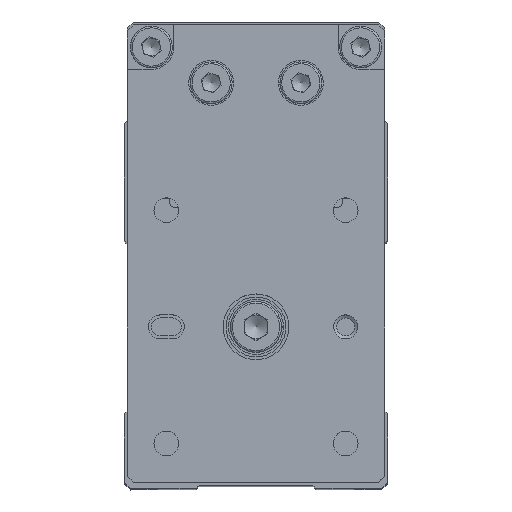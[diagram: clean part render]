
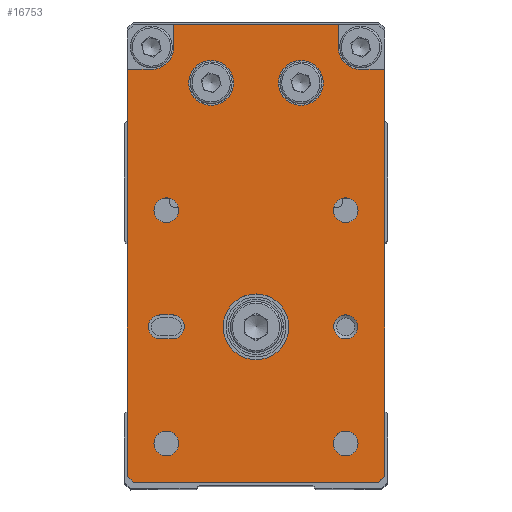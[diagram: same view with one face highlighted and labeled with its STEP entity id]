
A CAD part, top view. The second image highlights one B-rep face of the part: STEP entity #16753.
In plain terms, the highlighted planar face has unit normal (0, 0, 1).
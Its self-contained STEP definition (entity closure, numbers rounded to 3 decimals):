
#16246=CARTESIAN_POINT('',(49.652,-29.,93.));
#16247=VERTEX_POINT('',#16246);
#16248=CARTESIAN_POINT('',(53.402,-25.25,93.));
#16249=VERTEX_POINT('',#16248);
#16250=CARTESIAN_POINT('',(53.402,-29.,93.));
#16251=DIRECTION('',(0.0,0.0,-1.0));
#16252=DIRECTION('',(0.0,1.0,0.0));
#16253=AXIS2_PLACEMENT_3D('',#16250,#16251,#16252);
#16254=CIRCLE('',#16253,3.75);
#16255=EDGE_CURVE('',#16247,#16249,#16254,.T.);
#16288=CARTESIAN_POINT('',(49.652,-33.,93.));
#16289=VERTEX_POINT('',#16288);
#16290=CARTESIAN_POINT('',(49.652,-33.,93.));
#16291=DIRECTION('',(0.0,1.0,0.0));
#16292=VECTOR('',#16291,4.0);
#16293=LINE('',#16290,#16292);
#16294=EDGE_CURVE('',#16289,#16247,#16293,.T.);
#16319=CARTESIAN_POINT('',(57.102,-25.25,93.));
#16320=VERTEX_POINT('',#16319);
#16321=CARTESIAN_POINT('',(53.402,-25.25,93.));
#16322=DIRECTION('',(1.0,0.0,0.0));
#16323=VECTOR('',#16322,3.7);
#16324=LINE('',#16321,#16323);
#16325=EDGE_CURVE('',#16249,#16320,#16324,.T.);
#16394=CARTESIAN_POINT('',(49.652,6.,93.));
#16395=VERTEX_POINT('',#16394);
#16396=CARTESIAN_POINT('',(49.652,10.,93.));
#16397=VERTEX_POINT('',#16396);
#16398=CARTESIAN_POINT('',(49.652,6.,93.));
#16399=DIRECTION('',(0.0,1.0,0.0));
#16400=VECTOR('',#16399,4.);
#16401=LINE('',#16398,#16400);
#16402=EDGE_CURVE('',#16395,#16397,#16401,.T.);
#16434=CARTESIAN_POINT('',(53.402,2.25,93.));
#16435=VERTEX_POINT('',#16434);
#16436=CARTESIAN_POINT('',(53.402,6.,93.));
#16437=DIRECTION('',(0.0,0.0,-1.0));
#16438=DIRECTION('',(1.0,0.0,0.0));
#16439=AXIS2_PLACEMENT_3D('',#16436,#16437,#16438);
#16440=CIRCLE('',#16439,3.75);
#16441=EDGE_CURVE('',#16435,#16395,#16440,.T.);
#16467=CARTESIAN_POINT('',(57.102,2.25,93.));
#16468=VERTEX_POINT('',#16467);
#16469=CARTESIAN_POINT('',(57.102,2.25,93.));
#16470=DIRECTION('',(-1.0,0.0,0.0));
#16471=VECTOR('',#16470,3.7);
#16472=LINE('',#16469,#16471);
#16473=EDGE_CURVE('',#16468,#16435,#16472,.T.);
#16568=CARTESIAN_POINT('',(57.102,-25.25,93.));
#16569=DIRECTION('',(0.0,1.0,0.0));
#16570=VECTOR('',#16569,27.5);
#16571=LINE('',#16568,#16570);
#16572=EDGE_CURVE('',#16320,#16468,#16571,.T.);
#16577=CARTESIAN_POINT('',(18.852,-11.5,93.));
#16578=DIRECTION('',(0.0,0.0,1.0));
#16579=DIRECTION('',(1.0,0.0,0.0));
#16580=AXIS2_PLACEMENT_3D('',#16577,#16578,#16579);
#16581=PLANE('',#16580);
#16582=ORIENTED_EDGE('',*,*,#16294,.T.);
#16583=ORIENTED_EDGE('',*,*,#16255,.T.);
#16584=ORIENTED_EDGE('',*,*,#16325,.T.);
#16585=ORIENTED_EDGE('',*,*,#16572,.T.);
#16586=ORIENTED_EDGE('',*,*,#16473,.T.);
#16587=ORIENTED_EDGE('',*,*,#16441,.T.);
#16588=ORIENTED_EDGE('',*,*,#16402,.T.);
#16589=CARTESIAN_POINT('',(-18.398,10.,93.));
#16590=VERTEX_POINT('',#16589);
#16591=CARTESIAN_POINT('',(49.652,10.,93.));
#16592=DIRECTION('',(-1.0,0.0,0.0));
#16593=VECTOR('',#16592,68.05);
#16594=LINE('',#16591,#16593);
#16595=EDGE_CURVE('',#16397,#16590,#16594,.T.);
#16596=ORIENTED_EDGE('',*,*,#16595,.T.);
#16597=CARTESIAN_POINT('',(-19.398,9.,93.));
#16598=VERTEX_POINT('',#16597);
#16599=CARTESIAN_POINT('',(-18.398,10.,93.));
#16600=DIRECTION('',(-0.707,-0.707,0.0));
#16601=VECTOR('',#16600,1.414);
#16602=LINE('',#16599,#16601);
#16603=EDGE_CURVE('',#16590,#16598,#16602,.T.);
#16604=ORIENTED_EDGE('',*,*,#16603,.T.);
#16605=CARTESIAN_POINT('',(-19.398,-32.,93.));
#16606=VERTEX_POINT('',#16605);
#16607=CARTESIAN_POINT('',(-19.398,9.,93.));
#16608=DIRECTION('',(0.0,-1.0,0.0));
#16609=VECTOR('',#16608,41.);
#16610=LINE('',#16607,#16609);
#16611=EDGE_CURVE('',#16598,#16606,#16610,.T.);
#16612=ORIENTED_EDGE('',*,*,#16611,.T.);
#16613=CARTESIAN_POINT('',(-18.398,-33.,93.));
#16614=VERTEX_POINT('',#16613);
#16615=CARTESIAN_POINT('',(-19.398,-32.,93.));
#16616=DIRECTION('',(0.707,-0.707,0.0));
#16617=VECTOR('',#16616,1.414);
#16618=LINE('',#16615,#16617);
#16619=EDGE_CURVE('',#16606,#16614,#16618,.T.);
#16620=ORIENTED_EDGE('',*,*,#16619,.T.);
#16621=CARTESIAN_POINT('',(-18.398,-33.,93.));
#16622=DIRECTION('',(1.0,0.0,0.0));
#16623=VECTOR('',#16622,68.05);
#16624=LINE('',#16621,#16623);
#16625=EDGE_CURVE('',#16614,#16289,#16624,.T.);
#16626=ORIENTED_EDGE('',*,*,#16625,.T.);
#16627=EDGE_LOOP('',(#16582,#16583,#16584,#16585,#16586,#16587,#16588,#16596,#16604,#16612,#16620,#16626));
#16628=FACE_OUTER_BOUND('',#16627,.T.);
#16629=CARTESIAN_POINT('',(28.169,-26.5,93.));
#16630=VERTEX_POINT('',#16629);
#16631=CARTESIAN_POINT('',(26.102,-26.5,93.));
#16632=DIRECTION('',(0.0,0.0,-1.0));
#16633=DIRECTION('',(-1.0,0.0,0.0));
#16634=AXIS2_PLACEMENT_3D('',#16631,#16632,#16633);
#16635=CIRCLE('',#16634,2.067);
#16636=EDGE_CURVE('',#16630,#16630,#16635,.T.);
#16637=ORIENTED_EDGE('',*,*,#16636,.T.);
#16638=EDGE_LOOP('',(#16637));
#16639=FACE_BOUND('',#16638,.T.);
#16640=CARTESIAN_POINT('',(-10.831,3.5,93.));
#16641=VERTEX_POINT('',#16640);
#16642=CARTESIAN_POINT('',(-12.898,3.5,93.));
#16643=DIRECTION('',(0.0,0.0,-1.0));
#16644=DIRECTION('',(-1.0,0.0,0.0));
#16645=AXIS2_PLACEMENT_3D('',#16642,#16643,#16644);
#16646=CIRCLE('',#16645,2.067);
#16647=EDGE_CURVE('',#16641,#16641,#16646,.T.);
#16648=ORIENTED_EDGE('',*,*,#16647,.T.);
#16649=EDGE_LOOP('',(#16648));
#16650=FACE_BOUND('',#16649,.T.);
#16651=CARTESIAN_POINT('',(28.169,3.5,93.));
#16652=VERTEX_POINT('',#16651);
#16653=CARTESIAN_POINT('',(26.102,3.5,93.));
#16654=DIRECTION('',(0.0,0.0,-1.0));
#16655=DIRECTION('',(-1.0,0.0,0.0));
#16656=AXIS2_PLACEMENT_3D('',#16653,#16654,#16655);
#16657=CIRCLE('',#16656,2.067);
#16658=EDGE_CURVE('',#16652,#16652,#16657,.T.);
#16659=ORIENTED_EDGE('',*,*,#16658,.T.);
#16660=EDGE_LOOP('',(#16659));
#16661=FACE_BOUND('',#16660,.T.);
#16662=CARTESIAN_POINT('',(-10.831,-26.5,93.));
#16663=VERTEX_POINT('',#16662);
#16664=CARTESIAN_POINT('',(-12.898,-26.5,93.));
#16665=DIRECTION('',(0.0,0.0,-1.0));
#16666=DIRECTION('',(-1.0,0.0,0.0));
#16667=AXIS2_PLACEMENT_3D('',#16664,#16665,#16666);
#16668=CIRCLE('',#16667,2.067);
#16669=EDGE_CURVE('',#16663,#16663,#16668,.T.);
#16670=ORIENTED_EDGE('',*,*,#16669,.T.);
#16671=EDGE_LOOP('',(#16670));
#16672=FACE_BOUND('',#16671,.T.);
#16673=CARTESIAN_POINT('',(12.102,-11.5,93.));
#16674=VERTEX_POINT('',#16673);
#16675=CARTESIAN_POINT('',(6.602,-11.5,93.));
#16676=DIRECTION('',(0.0,0.0,-1.0));
#16677=DIRECTION('',(-1.0,0.0,0.0));
#16678=AXIS2_PLACEMENT_3D('',#16675,#16676,#16677);
#16679=CIRCLE('',#16678,5.5);
#16680=EDGE_CURVE('',#16674,#16674,#16679,.T.);
#16681=ORIENTED_EDGE('',*,*,#16680,.T.);
#16682=EDGE_LOOP('',(#16681));
#16683=FACE_BOUND('',#16682,.T.);
#16684=CARTESIAN_POINT('',(8.602,2.5,93.));
#16685=VERTEX_POINT('',#16684);
#16686=CARTESIAN_POINT('',(4.602,2.5,93.));
#16687=VERTEX_POINT('',#16686);
#16688=CARTESIAN_POINT('',(6.602,2.5,93.));
#16689=DIRECTION('',(0.0,0.0,-1.0));
#16690=DIRECTION('',(1.0,0.0,0.0));
#16691=AXIS2_PLACEMENT_3D('',#16688,#16689,#16690);
#16692=CIRCLE('',#16691,2.);
#16693=EDGE_CURVE('',#16685,#16687,#16692,.T.);
#16694=ORIENTED_EDGE('',*,*,#16693,.T.);
#16695=CARTESIAN_POINT('',(4.602,4.5,93.));
#16696=VERTEX_POINT('',#16695);
#16697=CARTESIAN_POINT('',(4.602,2.5,93.));
#16698=DIRECTION('',(0.0,1.0,0.0));
#16699=VECTOR('',#16698,2.);
#16700=LINE('',#16697,#16699);
#16701=EDGE_CURVE('',#16687,#16696,#16700,.T.);
#16702=ORIENTED_EDGE('',*,*,#16701,.T.);
#16703=CARTESIAN_POINT('',(8.602,4.5,93.));
#16704=VERTEX_POINT('',#16703);
#16705=CARTESIAN_POINT('',(6.602,4.5,93.));
#16706=DIRECTION('',(0.0,0.0,-1.0));
#16707=DIRECTION('',(-1.0,0.0,0.0));
#16708=AXIS2_PLACEMENT_3D('',#16705,#16706,#16707);
#16709=CIRCLE('',#16708,2.0);
#16710=EDGE_CURVE('',#16696,#16704,#16709,.T.);
#16711=ORIENTED_EDGE('',*,*,#16710,.T.);
#16712=CARTESIAN_POINT('',(8.602,4.5,93.));
#16713=DIRECTION('',(0.0,-1.0,0.0));
#16714=VECTOR('',#16713,2.);
#16715=LINE('',#16712,#16714);
#16716=EDGE_CURVE('',#16704,#16685,#16715,.T.);
#16717=ORIENTED_EDGE('',*,*,#16716,.T.);
#16718=EDGE_LOOP('',(#16694,#16702,#16711,#16717));
#16719=FACE_BOUND('',#16718,.T.);
#16720=CARTESIAN_POINT('',(8.602,-26.5,93.));
#16721=VERTEX_POINT('',#16720);
#16722=CARTESIAN_POINT('',(6.602,-26.5,93.));
#16723=DIRECTION('',(0.0,0.0,-1.0));
#16724=DIRECTION('',(1.0,0.0,0.0));
#16725=AXIS2_PLACEMENT_3D('',#16722,#16723,#16724);
#16726=CIRCLE('',#16725,2.0);
#16727=EDGE_CURVE('',#16721,#16721,#16726,.T.);
#16728=ORIENTED_EDGE('',*,*,#16727,.T.);
#16729=EDGE_LOOP('',(#16728));
#16730=FACE_BOUND('',#16729,.T.);
#16731=CARTESIAN_POINT('',(51.152,-19.,93.));
#16732=VERTEX_POINT('',#16731);
#16733=CARTESIAN_POINT('',(47.402,-19.,93.));
#16734=DIRECTION('',(0.0,0.0,-1.0));
#16735=DIRECTION('',(-1.0,0.0,0.0));
#16736=AXIS2_PLACEMENT_3D('',#16733,#16734,#16735);
#16737=CIRCLE('',#16736,3.75);
#16738=EDGE_CURVE('',#16732,#16732,#16737,.T.);
#16739=ORIENTED_EDGE('',*,*,#16738,.T.);
#16740=EDGE_LOOP('',(#16739));
#16741=FACE_BOUND('',#16740,.T.);
#16742=CARTESIAN_POINT('',(51.152,-4.,93.));
#16743=VERTEX_POINT('',#16742);
#16744=CARTESIAN_POINT('',(47.402,-4.,93.));
#16745=DIRECTION('',(0.0,0.0,-1.0));
#16746=DIRECTION('',(-1.0,0.0,0.0));
#16747=AXIS2_PLACEMENT_3D('',#16744,#16745,#16746);
#16748=CIRCLE('',#16747,3.75);
#16749=EDGE_CURVE('',#16743,#16743,#16748,.T.);
#16750=ORIENTED_EDGE('',*,*,#16749,.T.);
#16751=EDGE_LOOP('',(#16750));
#16752=FACE_BOUND('',#16751,.T.);
#16753=ADVANCED_FACE('',(#16628,#16639,#16650,#16661,#16672,#16683,#16719,#16730,#16741,#16752),#16581,.T.);
